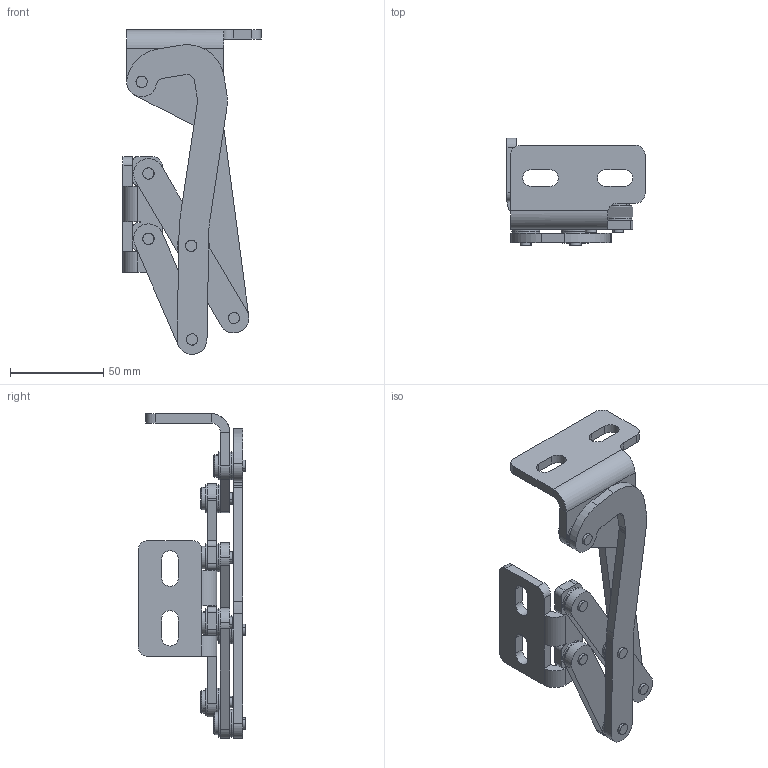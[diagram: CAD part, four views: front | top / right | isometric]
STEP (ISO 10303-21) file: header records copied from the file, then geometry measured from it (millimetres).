
FILE_DESCRIPTION (( 'STEP AP203' ), '1' );
FILE_NAME ('01-M-05-05-10300.STEP', '2021-08-04T09:33:12', ( '' ), ( '' ), 'SwSTEP 2.0', 'SolidWorks 2020', '' );
FILE_SCHEMA (( 'CONFIG_CONTROL_DESIGN' ));
Length unit declared in the file: millimetre
Products named in the file (11): 01-M-05-05-10310_Podkˆadka 5.U07.182.07_B; 01-M-05-05-10303_Blacha 5; 01-M-05-05-10304_Blacha 5; 01-M-05-05-10305; 01-M-05-05-10308_Tulejka Igus GFM-0810-065; 01-M-05-05-10309_Podkˆadka 5.U07.182.07_A; 01-M-05-05-10300; 01-M-05-05-10307_Nit tulejki P.002644_00-00; 01-M-05-05-10302; 01-M-05-05-10306_Blacha 5; 01-M-05-05-10301
Assembly tree (34 placements, depth 2):
  01-M-05-05-10300
    01-M-05-05-10301
    01-M-05-05-10302
    01-M-05-05-10303_Blacha 5
    01-M-05-05-10304_Blacha 5
    01-M-05-05-10305
    01-M-05-05-10306_Blacha 5
    01-M-05-05-10307_Nit tulejki P.002644_00-00  x7
    01-M-05-05-10308_Tulejka Igus GFM-0810-065  x7
    01-M-05-05-10309_Podkˆadka 5.U07.182.07_A  x7
    01-M-05-05-10310_Podkˆadka 5.U07.182.07_B  x7
Bounding box: 74 x 57.5 x 174.01 mm (x, y, z)
Volume: 82940.3 mm3; surface area: 53579.3 mm2
Topology: 34 solids, 34 shells, 411 faces, 922 edges, 598 vertices
Faces by surface type: cylinder 224, plane 145, cone 28, bspline 14
Entity records: 7955 total; most frequent: CARTESIAN_POINT 1212, DIRECTION 1138, ORIENTED_EDGE 956, EDGE_CURVE 478, AXIS2_PLACEMENT_3D 440, VERTEX_POINT 310, VECTOR 258, LINE 258
